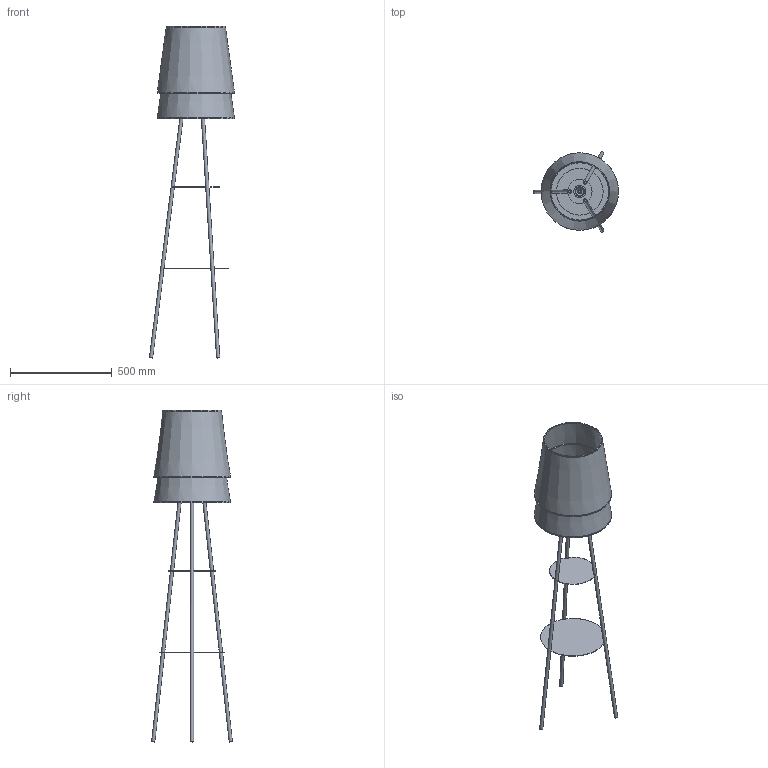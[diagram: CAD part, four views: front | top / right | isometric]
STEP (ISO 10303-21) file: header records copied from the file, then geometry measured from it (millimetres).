
FILE_DESCRIPTION( ( 'STEP AP203' ), '1' );
FILE_NAME( '//srvbf/BF Disegni/LISA/Asm1.stp', '2020-10-22T07:29:36', ( ' ' ), ( ' ' ), 'XStep 1.0', ' ', ' ' );
FILE_SCHEMA( ( 'CONFIG_CONTROL_DESIGN) ( )' ) );
Length unit declared in the file: metre
Products named in the file (9): Assem1; 1; 2; 3; 4; 5; 6; 7; 8
Bounding box: 418.54 x 396.96 x 1632.26 mm (x, y, z)
Volume: 1874262.1 mm3; surface area: 2797288.2 mm2
Topology: 16 solids, 16 shells, 154 faces, 384 edges, 252 vertices
Faces by surface type: plane 76, cylinder 54, cone 12, torus 8, bspline 4
Full cylindrical faces by diameter (mm): 10 x6, 10.5 x2, 13 x6, 16 x6, 41 x2, 42 x4, 60 x2, 120 x2
Entity records: 2723 total; most frequent: CARTESIAN_POINT 757, DIRECTION 357, ORIENTED_EDGE 248, AXIS2_PLACEMENT_3D 177, EDGE_LOOP 135, EDGE_CURVE 124, VERTEX_POINT 97, FACE_OUTER_BOUND 94
